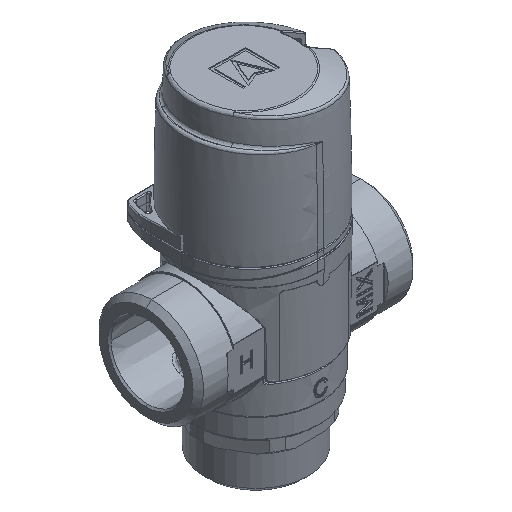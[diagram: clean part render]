
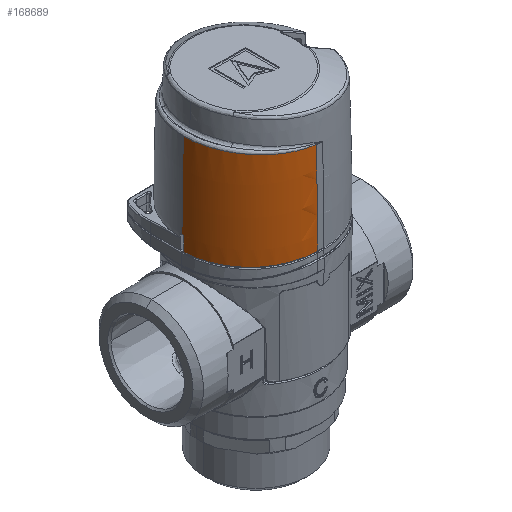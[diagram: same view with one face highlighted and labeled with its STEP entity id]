
A CAD part, isometric view. The second image highlights one B-rep face of the part: STEP entity #168689.
In plain terms, the highlighted toroidal (fillet/blend) face has major radius 1063.64 mm and minor radius 1085.24 mm.
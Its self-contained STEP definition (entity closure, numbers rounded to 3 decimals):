
#2453 = ORIENTED_EDGE ( 'NONE', *, *, #19756, .T. ) ;
#6827 = CARTESIAN_POINT ( 'NONE',  ( 23.582, 0.6, 4.5 ) ) ;
#9391 = CARTESIAN_POINT ( 'NONE',  ( 22.925, 3.47, 31.712 ) ) ;
#10366 = CIRCLE ( 'NONE', #135297, 1085.244 ) ;
#10437 = CARTESIAN_POINT ( 'NONE',  ( 6.124, 20.914, 29.93 ) ) ;
#19756 = EDGE_CURVE ( 'NONE', #193119, #102973, #80896, .T. ) ;
#26802 = CARTESIAN_POINT ( 'NONE',  ( 13.775, 17.743, 30.742 ) ) ;
#31125 = CARTESIAN_POINT ( 'NONE',  ( 2., -1063.644, -0.2 ) ) ;
#32743 = AXIS2_PLACEMENT_3D ( 'NONE', #213339, #180685, #49057 ) ;
#42525 = DIRECTION ( 'NONE',  ( 0., -1., 0. ) ) ;
#44204 = CARTESIAN_POINT ( 'NONE',  ( 3.393, 21.19, 29.641 ) ) ;
#49057 = DIRECTION ( 'NONE',  ( 1., 0., 0. ) ) ;
#49771 = DIRECTION ( 'NONE',  ( 1., 0., 0. ) ) ;
#53879 = CARTESIAN_POINT ( 'NONE',  ( 23.587, 0.1, 5. ) ) ;
#60988 = DIRECTION ( 'NONE',  ( 1., 0., 0. ) ) ;
#61600 = CARTESIAN_POINT ( 'NONE',  ( 17.027, 15.074, 31.086 ) ) ;
#62019 = CARTESIAN_POINT ( 'NONE',  ( 23.588, 0., 5. ) ) ;
#67673 = CARTESIAN_POINT ( 'NONE',  ( 23.582, 0.6, 4.5 ) ) ;
#69693 = VERTEX_POINT ( 'NONE', #62019 ) ;
#71489 = ORIENTED_EDGE ( 'NONE', *, *, #124627, .T. ) ;
#75088 = AXIS2_PLACEMENT_3D ( 'NONE', #146759, #144607, #60988 ) ;
#75638 = VERTEX_POINT ( 'NONE', #97479 ) ;
#77167 = B_SPLINE_CURVE_WITH_KNOTS ( 'NONE', 3,
 ( #67673, #167743, #85013, #201514 ),
 .UNSPECIFIED., .F., .F.,
 ( 4, 4 ),
 ( 0., 0.004 ),
 .UNSPECIFIED. ) ;
#79182 = DIRECTION ( 'NONE',  ( 0., 0., -1. ) ) ;
#80896 = B_SPLINE_CURVE_WITH_KNOTS ( 'NONE', 3,
 ( #90594, #138348, #186333, #120968, #204910, #122035 ),
 .UNSPECIFIED., .F., .F.,
 ( 4, 2, 4 ),
 ( 0., 0., 0.001 ),
 .UNSPECIFIED. ) ;
#81319 = CARTESIAN_POINT ( 'NONE',  ( 2., 0., 5. ) ) ;
#82960 = EDGE_CURVE ( 'NONE', #75638, #99470, #166525, .T. ) ;
#85013 = CARTESIAN_POINT ( 'NONE',  ( 23.591, 0.6, 1.7 ) ) ;
#89060 = CIRCLE ( 'NONE', #207294, 1085.244 ) ;
#90594 = CARTESIAN_POINT ( 'NONE',  ( 23.587, 0.1, 5. ) ) ;
#92115 = CARTESIAN_POINT ( 'NONE',  ( 23.13, 0.005, 31.733 ) ) ;
#93193 = CARTESIAN_POINT ( 'NONE',  ( 2., 21.194, 29.493 ) ) ;
#95363 = TOROIDAL_SURFACE ( 'NONE', #32743, -1063.644, 1085.244 ) ;
#95576 = EDGE_LOOP ( 'NONE', ( #211386, #105403, #2453, #119565, #71489, #179727, #161521 ) ) ;
#96421 = CARTESIAN_POINT ( 'NONE',  ( 21.542, 8.137, 31.565 ) ) ;
#97479 = CARTESIAN_POINT ( 'NONE',  ( 23.13, 0., 31.733 ) ) ;
#99470 = VERTEX_POINT ( 'NONE', #103203 ) ;
#102973 = VERTEX_POINT ( 'NONE', #6827 ) ;
#103203 = CARTESIAN_POINT ( 'NONE',  ( 2., 21.194, 29.493 ) ) ;
#105403 = ORIENTED_EDGE ( 'NONE', *, *, #208404, .F. ) ;
#106230 = CARTESIAN_POINT ( 'NONE',  ( 2., 21.6, 0.3 ) ) ;
#109393 = CARTESIAN_POINT ( 'NONE',  ( 19.212, 12.415, 31.318 ) ) ;
#119565 = ORIENTED_EDGE ( 'NONE', *, *, #124391, .T. ) ;
#120968 = CARTESIAN_POINT ( 'NONE',  ( 23.582, 0.546, 4.762 ) ) ;
#122035 = CARTESIAN_POINT ( 'NONE',  ( 23.582, 0.6, 4.5 ) ) ;
#124391 = EDGE_CURVE ( 'NONE', #102973, #147127, #77167, .T. ) ;
#124627 = EDGE_CURVE ( 'NONE', #147127, #157392, #193111, .T. ) ;
#131341 = CIRCLE ( 'NONE', #214891, 21.588 ) ;
#135297 = AXIS2_PLACEMENT_3D ( 'NONE', #31125, #146324, #183342 ) ;
#138348 = CARTESIAN_POINT ( 'NONE',  ( 23.587, 0.232, 5. ) ) ;
#142585 = EDGE_CURVE ( 'NONE', #69693, #75638, #89060, .T. ) ;
#144607 = DIRECTION ( 'NONE',  ( 0., 0., 1. ) ) ;
#146293 = CARTESIAN_POINT ( 'NONE',  ( 10.135, 19.691, 30.356 ) ) ;
#146324 = DIRECTION ( 'NONE',  ( -1., 0., 0. ) ) ;
#146759 = CARTESIAN_POINT ( 'NONE',  ( 2., 0., 0.3 ) ) ;
#147127 = VERTEX_POINT ( 'NONE', #176557 ) ;
#157392 = VERTEX_POINT ( 'NONE', #106230 ) ;
#158407 = CARTESIAN_POINT ( 'NONE',  ( 23.131, 1.399, 31.734 ) ) ;
#161521 = ORIENTED_EDGE ( 'NONE', *, *, #82960, .F. ) ;
#164795 = EDGE_CURVE ( 'NONE', #99470, #157392, #10366, .T. ) ;
#166525 = B_SPLINE_CURVE_WITH_KNOTS ( 'NONE', 3,
 ( #207476, #92115, #158407, #9391, #208562, #96421, #210665, #109393, #61600, #26802, #146293, #10437, #44204, #93193 ),
 .UNSPECIFIED., .F., .F.,
 ( 4, 1, 1, 1, 1, 1, 1, 1, 1, 1, 1, 4 ),
 ( 0.5, 0.5, 0.563, 0.594, 0.625, 0.656, 0.688, 0.75, 0.812, 0.875, 0.938, 1. ),
 .UNSPECIFIED. ) ;
#167743 = CARTESIAN_POINT ( 'NONE',  ( 23.588, 0.6, 3.1 ) ) ;
#168689 = ADVANCED_FACE ( 'NONE', ( #197032 ), #95363, .T. ) ;
#176557 = CARTESIAN_POINT ( 'NONE',  ( 23.592, 0.6, 0.3 ) ) ;
#179727 = ORIENTED_EDGE ( 'NONE', *, *, #164795, .F. ) ;
#180685 = DIRECTION ( 'NONE',  ( 0., 0., 1. ) ) ;
#183342 = DIRECTION ( 'NONE',  ( 0., -1., 0. ) ) ;
#186333 = CARTESIAN_POINT ( 'NONE',  ( 23.585, 0.361, 4.946 ) ) ;
#193111 = CIRCLE ( 'NONE', #75088, 21.6 ) ;
#193119 = VERTEX_POINT ( 'NONE', #53879 ) ;
#193724 = CARTESIAN_POINT ( 'NONE',  ( -1061.644, 0., -0.2 ) ) ;
#197032 = FACE_OUTER_BOUND ( 'NONE', #95576, .T. ) ;
#201514 = CARTESIAN_POINT ( 'NONE',  ( 23.592, 0.6, 0.3 ) ) ;
#204910 = CARTESIAN_POINT ( 'NONE',  ( 23.581, 0.6, 4.632 ) ) ;
#207294 = AXIS2_PLACEMENT_3D ( 'NONE', #193724, #42525, #210078 ) ;
#207476 = CARTESIAN_POINT ( 'NONE',  ( 23.13, 0., 31.733 ) ) ;
#208404 = EDGE_CURVE ( 'NONE', #193119, #69693, #131341, .T. ) ;
#208562 = CARTESIAN_POINT ( 'NONE',  ( 22.242, 6.189, 31.639 ) ) ;
#210078 = DIRECTION ( 'NONE',  ( 0., 0., -1. ) ) ;
#210665 = CARTESIAN_POINT ( 'NONE',  ( 20.656, 10.011, 31.471 ) ) ;
#211386 = ORIENTED_EDGE ( 'NONE', *, *, #142585, .F. ) ;
#213339 = CARTESIAN_POINT ( 'NONE',  ( 2., 0., -0.2 ) ) ;
#214891 = AXIS2_PLACEMENT_3D ( 'NONE', #81319, #79182, #49771 ) ;
